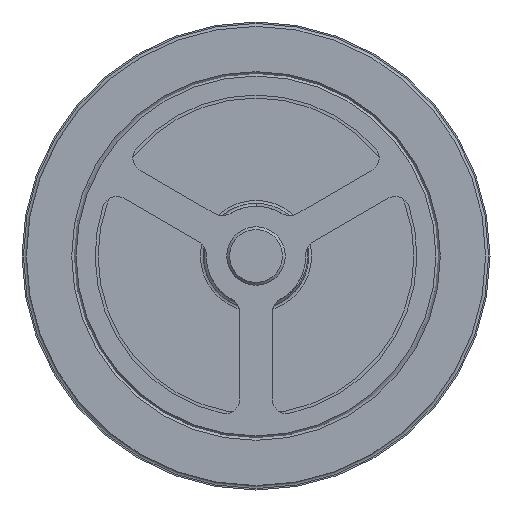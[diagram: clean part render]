
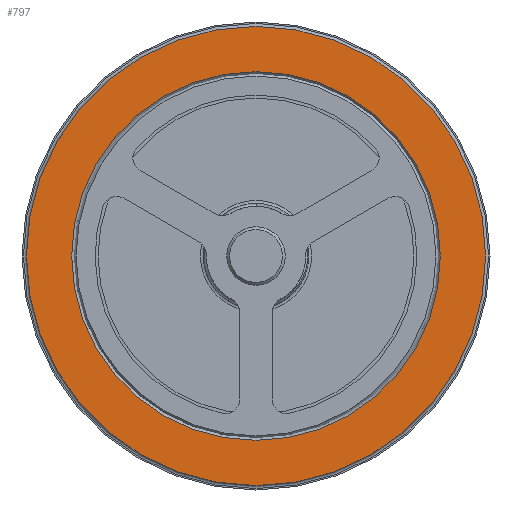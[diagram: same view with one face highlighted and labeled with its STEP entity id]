
A CAD part, left-side view. The second image highlights one B-rep face of the part: STEP entity #797.
In plain terms, the highlighted planar face has unit normal (-1, 0, 0).
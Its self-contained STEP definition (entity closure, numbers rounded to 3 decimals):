
#797=ADVANCED_FACE('',(#2453,#2455),#2457,.F.);
#2453=FACE_BOUND('',#2454,.T.);
#2454=EDGE_LOOP('',(#7671));
#2455=FACE_BOUND('',#2456,.T.);
#2456=EDGE_LOOP('',(#7672));
#2457=PLANE('',#2458);
#2458=AXIS2_PLACEMENT_3D('',#2459,#2460,#2461);
#2459=CARTESIAN_POINT('',(-82.,0.,0.));
#2460=DIRECTION('',(1.,0.,0.));
#2461=DIRECTION('',(0.,0.,1.));
#7671=ORIENTED_EDGE('',*,*,#9409,.F.);
#7672=ORIENTED_EDGE('',*,*,#9410,.T.);
#9409=EDGE_CURVE('',#10914,#10914,#10915,.F.);
#9410=EDGE_CURVE('',#10916,#10916,#10917,.F.);
#10914=VERTEX_POINT('',#20030);
#10915=CIRCLE('',#20031,78.5);
#10916=VERTEX_POINT('',#20035);
#10917=CIRCLE('',#20036,63.017);
#20030=CARTESIAN_POINT('',(-82.,0.,78.5));
#20031=AXIS2_PLACEMENT_3D('',#20032,#20033,#20034);
#20032=CARTESIAN_POINT('',(-82.,0.,0.));
#20033=DIRECTION('',(-1.,0.,0.));
#20034=DIRECTION('',(0.,0.,1.));
#20035=CARTESIAN_POINT('',(-82.,63.017,0.));
#20036=AXIS2_PLACEMENT_3D('',#20037,#20038,#20039);
#20037=CARTESIAN_POINT('',(-82.,0.,0.));
#20038=DIRECTION('',(-1.,0.,0.));
#20039=DIRECTION('',(0.,1.,0.));
